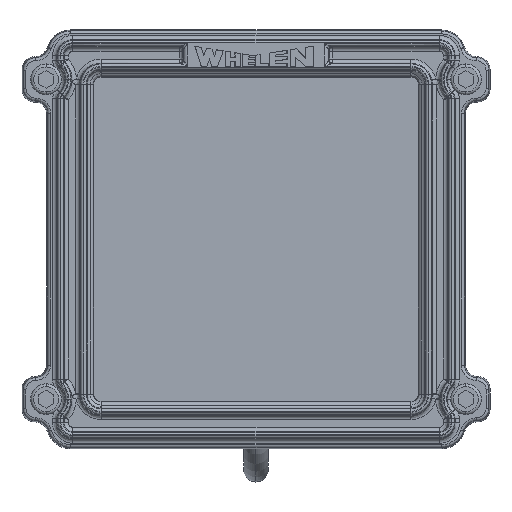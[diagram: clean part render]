
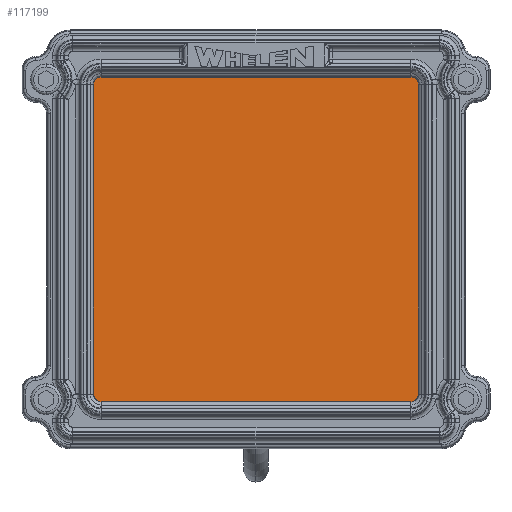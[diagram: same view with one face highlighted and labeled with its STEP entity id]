
A CAD part, top view. The second image highlights one B-rep face of the part: STEP entity #117199.
In plain terms, the highlighted planar face has unit normal (0, 0, 1).
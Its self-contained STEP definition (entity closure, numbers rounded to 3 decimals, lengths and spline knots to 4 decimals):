
#25962 = VERTEX_POINT ( 'NONE', #46058 ) ;
#25964 = VERTEX_POINT ( 'NONE', #46060 ) ;
#25968 = VERTEX_POINT ( 'NONE', #46064 ) ;
#25973 = VERTEX_POINT ( 'NONE', #46067 ) ;
#25974 = VERTEX_POINT ( 'NONE', #46068 ) ;
#25976 = VERTEX_POINT ( 'NONE', #46069 ) ;
#25979 = VERTEX_POINT ( 'NONE', #46074 ) ;
#25981 = VERTEX_POINT ( 'NONE', #46076 ) ;
#34499 = LINE ( 'NONE', #38697, #34502 ) ;
#34502 = VECTOR ( 'NONE', #38702, 39.3701 ) ;
#34505 = LINE ( 'NONE', #40428, #34507 ) ;
#34507 = VECTOR ( 'NONE', #40436, 39.3701 ) ;
#34511 = LINE ( 'NONE', #40471, #34513 ) ;
#34513 = VECTOR ( 'NONE', #40472, 39.3701 ) ;
#34522 = LINE ( 'NONE', #40487, #34524 ) ;
#34524 = VECTOR ( 'NONE', #40495, 39.3701 ) ;
#38635 = CARTESIAN_POINT ( 'NONE',  ( -1.6793, 1.6361, 0.181 ) ) ;
#38650 = CARTESIAN_POINT ( 'NONE',  ( -1.6793, 1.575, 0.181 ) ) ;
#38660 = CARTESIAN_POINT ( 'NONE',  ( -1.6361, 1.6793, 0.181 ) ) ;
#38662 = CARTESIAN_POINT ( 'NONE',  ( -1.575, 1.6793, 0.181 ) ) ;
#38697 = CARTESIAN_POINT ( 'NONE',  ( 1.9375, 1.6793, 0.181 ) ) ;
#38702 = DIRECTION ( 'NONE',  ( 1., 0., 0. ) ) ;
#38707 = CARTESIAN_POINT ( 'NONE',  ( 1.575, 1.6793, 0.181 ) ) ;
#38710 = CARTESIAN_POINT ( 'NONE',  ( 1.6361, 1.6793, 0.181 ) ) ;
#40428 = CARTESIAN_POINT ( 'NONE',  ( 1.6793, -1.9375, 0.181 ) ) ;
#40432 = CARTESIAN_POINT ( 'NONE',  ( 1.6793, 1.6361, 0.181 ) ) ;
#40436 = DIRECTION ( 'NONE',  ( 0., -1., 0. ) ) ;
#40437 = CARTESIAN_POINT ( 'NONE',  ( 1.6793, 1.575, 0.181 ) ) ;
#40443 = CARTESIAN_POINT ( 'NONE',  ( 1.6793, -1.6361, 0.181 ) ) ;
#40452 = CARTESIAN_POINT ( 'NONE',  ( 1.6793, -1.575, 0.181 ) ) ;
#40466 = CARTESIAN_POINT ( 'NONE',  ( 1.6361, -1.6793, 0.181 ) ) ;
#40467 = CARTESIAN_POINT ( 'NONE',  ( 1.575, -1.6793, 0.181 ) ) ;
#40471 = CARTESIAN_POINT ( 'NONE',  ( 1.9375, -1.6793, 0.181 ) ) ;
#40472 = DIRECTION ( 'NONE',  ( -1., 0., 0. ) ) ;
#40483 = CARTESIAN_POINT ( 'NONE',  ( -1.575, -1.6793, 0.181 ) ) ;
#40487 = CARTESIAN_POINT ( 'NONE',  ( -1.6793, -1.9375, 0.181 ) ) ;
#40491 = CARTESIAN_POINT ( 'NONE',  ( -1.6361, -1.6793, 0.181 ) ) ;
#40495 = DIRECTION ( 'NONE',  ( 0., 1., 0. ) ) ;
#40496 = CARTESIAN_POINT ( 'NONE',  ( -1.6793, -1.6361, 0.181 ) ) ;
#40497 = CARTESIAN_POINT ( 'NONE',  ( -1.6793, -1.575, 0.181 ) ) ;
#45164 = AXIS2_PLACEMENT_3D ( 'NONE', #90725, #90730, #90731 ) ;
#46058 = CARTESIAN_POINT ( 'NONE',  ( -1.575, 1.6793, 0.181 ) ) ;
#46060 = CARTESIAN_POINT ( 'NONE',  ( 1.575, 1.6793, 0.181 ) ) ;
#46064 = CARTESIAN_POINT ( 'NONE',  ( 1.575, -1.6793, 0.181 ) ) ;
#46067 = CARTESIAN_POINT ( 'NONE',  ( -1.6793, 1.575, 0.181 ) ) ;
#46068 = CARTESIAN_POINT ( 'NONE',  ( -1.6793, -1.575, 0.181 ) ) ;
#46069 = CARTESIAN_POINT ( 'NONE',  ( 1.6793, 1.575, 0.181 ) ) ;
#46074 = CARTESIAN_POINT ( 'NONE',  ( -1.575, -1.6793, 0.181 ) ) ;
#46076 = CARTESIAN_POINT ( 'NONE',  ( 1.6793, -1.575, 0.181 ) ) ;
#55894 = FACE_OUTER_BOUND ( 'NONE', #95362, .T. ) ;
#90725 = CARTESIAN_POINT ( 'NONE',  ( 1.9375, -1.9375, 0.181 ) ) ;
#90727 = PLANE ( 'NONE',  #45164 ) ;
#90730 = DIRECTION ( 'NONE',  ( 0., 0., -1. ) ) ;
#90731 = DIRECTION ( 'NONE',  ( -1., 0., 0. ) ) ;
#95362 = EDGE_LOOP ( 'NONE', ( #97360, #97362, #97364, #97365, #97368, #97370, #97371, #97373 ) ) ;
#97360 = ORIENTED_EDGE ( 'NONE', *, *, #103381, .F. ) ;
#97362 = ORIENTED_EDGE ( 'NONE', *, *, #103371, .F. ) ;
#97364 = ORIENTED_EDGE ( 'NONE', *, *, #103365, .F. ) ;
#97365 = ORIENTED_EDGE ( 'NONE', *, *, #103358, .F. ) ;
#97368 = ORIENTED_EDGE ( 'NONE', *, *, #103355, .F. ) ;
#97370 = ORIENTED_EDGE ( 'NONE', *, *, #103348, .F. ) ;
#97371 = ORIENTED_EDGE ( 'NONE', *, *, #103341, .F. ) ;
#97373 = ORIENTED_EDGE ( 'NONE', *, *, #103385, .F. ) ;
#103341 = EDGE_CURVE ( 'NONE', #25973, #25962, #137218, .T. ) ;
#103348 = EDGE_CURVE ( 'NONE', #25962, #25964, #34499, .T. ) ;
#103355 = EDGE_CURVE ( 'NONE', #25964, #25976, #137220, .T. ) ;
#103358 = EDGE_CURVE ( 'NONE', #25976, #25981, #34505, .T. ) ;
#103365 = EDGE_CURVE ( 'NONE', #25981, #25968, #137229, .T. ) ;
#103371 = EDGE_CURVE ( 'NONE', #25968, #25979, #34511, .T. ) ;
#103381 = EDGE_CURVE ( 'NONE', #25979, #25974, #137232, .T. ) ;
#103385 = EDGE_CURVE ( 'NONE', #25974, #25973, #34522, .T. ) ;
#117199 = ADVANCED_FACE ( 'NONE', ( #55894 ), #90727, .F. ) ;
#137218 =( BOUNDED_CURVE ( )  B_SPLINE_CURVE ( 3, ( #38650, #38635, #38660, #38662 ),
 .UNSPECIFIED., .F., .T. ) 
 B_SPLINE_CURVE_WITH_KNOTS ( ( 4, 4 ),
 ( 0., 1. ),
 .UNSPECIFIED. ) 
 CURVE ( )  GEOMETRIC_REPRESENTATION_ITEM ( )  RATIONAL_B_SPLINE_CURVE ( ( 1., 0.805, 0.805, 1. ) ) 
 REPRESENTATION_ITEM ( '' )  );
#137220 =( BOUNDED_CURVE ( )  B_SPLINE_CURVE ( 3, ( #38707, #38710, #40432, #40437 ),
 .UNSPECIFIED., .F., .T. ) 
 B_SPLINE_CURVE_WITH_KNOTS ( ( 4, 4 ),
 ( 0., 1. ),
 .UNSPECIFIED. ) 
 CURVE ( )  GEOMETRIC_REPRESENTATION_ITEM ( )  RATIONAL_B_SPLINE_CURVE ( ( 1., 0.805, 0.805, 1. ) ) 
 REPRESENTATION_ITEM ( '' )  );
#137229 =( BOUNDED_CURVE ( )  B_SPLINE_CURVE ( 3, ( #40452, #40443, #40466, #40467 ),
 .UNSPECIFIED., .F., .T. ) 
 B_SPLINE_CURVE_WITH_KNOTS ( ( 4, 4 ),
 ( 0., 1. ),
 .UNSPECIFIED. ) 
 CURVE ( )  GEOMETRIC_REPRESENTATION_ITEM ( )  RATIONAL_B_SPLINE_CURVE ( ( 1., 0.805, 0.805, 1. ) ) 
 REPRESENTATION_ITEM ( '' )  );
#137232 =( BOUNDED_CURVE ( )  B_SPLINE_CURVE ( 3, ( #40483, #40491, #40496, #40497 ),
 .UNSPECIFIED., .F., .T. ) 
 B_SPLINE_CURVE_WITH_KNOTS ( ( 4, 4 ),
 ( 0., 1. ),
 .UNSPECIFIED. ) 
 CURVE ( )  GEOMETRIC_REPRESENTATION_ITEM ( )  RATIONAL_B_SPLINE_CURVE ( ( 1., 0.805, 0.805, 1. ) ) 
 REPRESENTATION_ITEM ( '' )  );
